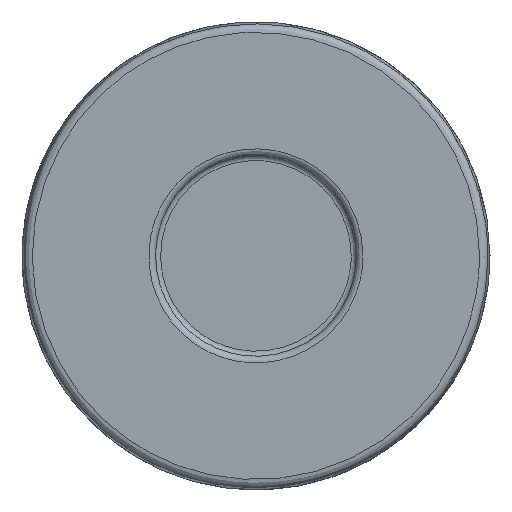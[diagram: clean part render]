
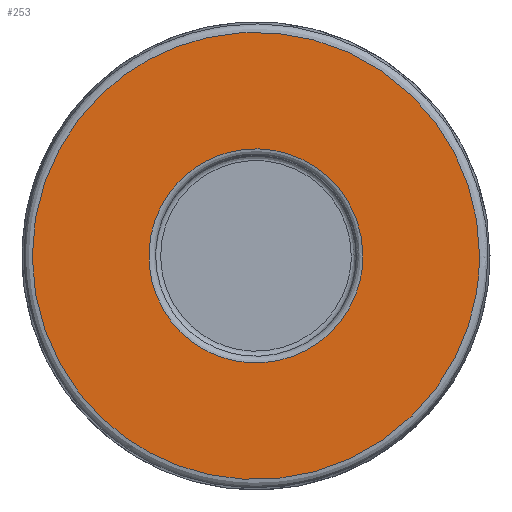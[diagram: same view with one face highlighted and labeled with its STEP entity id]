
A CAD part, front view. The second image highlights one B-rep face of the part: STEP entity #253.
In plain terms, the highlighted free-form (B-spline) face has degree [1, 1] with [2, 2] control points.
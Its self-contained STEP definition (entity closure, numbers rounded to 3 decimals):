
#187=CARTESIAN_POINT('V37',(42.706,10.787,
   0.));
#188=VERTEX_POINT('V37',#187);
#204=CARTESIAN_POINT('E56',(42.706,10.787,
   0.));
#205=CARTESIAN_POINT('E56',(42.706,10.787,
   27.713));
#206=CARTESIAN_POINT('E56',(18.706,10.787,
   13.856));
#207=CARTESIAN_POINT('E56',(-5.294,10.787,
   0.));
#208=CARTESIAN_POINT('E56',(18.706,10.787,
   -13.856));
#209=CARTESIAN_POINT('E56',(42.706,10.787,
   -27.713));
#210=CARTESIAN_POINT('E56',(42.706,10.787,
   0.));
#218=(BOUNDED_CURVE()B_SPLINE_CURVE(2,(#204,#205,#206,#207,#208,
   #209,#210),.CIRCULAR_ARC.,.T.,.U.)B_SPLINE_CURVE_WITH_KNOTS((3,
   2,2,3),(0.0,26.488,52.976,
   79.464),.UNSPECIFIED.)CURVE()
   GEOMETRIC_REPRESENTATION_ITEM()RATIONAL_B_SPLINE_CURVE((1.0,
   0.5,1.0,0.5,1.0,0.5,1.0)
   )REPRESENTATION_ITEM('E56'));
#219=EDGE_CURVE('E56',#188,#188,#218,.T.);
#224=CARTESIAN_POINT('F26',(63.485,10.787,
   -36.78));
#225=CARTESIAN_POINT('F26',(63.485,10.787,
   36.78));
#226=CARTESIAN_POINT('F26',(-10.074,10.787,
   -36.78));
#227=CARTESIAN_POINT('F26',(-10.074,10.787,
   36.78));
#228=QUASI_UNIFORM_SURFACE('F26',1,1,((#224,#226),(#225,#227)),
   .PLANE_SURF.,.F.,.F.,.U.);
#229=CARTESIAN_POINT('V38',(60.142,10.787,
   0.));
#230=VERTEX_POINT('V38',#229);
#231=CARTESIAN_POINT('E57',(60.142,10.787,
   0.));
#232=CARTESIAN_POINT('E57',(60.142,10.787,
   57.913));
#233=CARTESIAN_POINT('E57',(9.988,10.787,
   28.956));
#234=CARTESIAN_POINT('E57',(-40.166,10.787,
   0.));
#235=CARTESIAN_POINT('E57',(9.988,10.787,
   -28.956));
#236=CARTESIAN_POINT('E57',(60.142,10.787,
   -57.913));
#237=CARTESIAN_POINT('E57',(60.142,10.787,
   0.));
#245=(BOUNDED_CURVE()B_SPLINE_CURVE(2,(#231,#232,#233,#234,#235,
   #236,#237),.CIRCULAR_ARC.,.T.,.U.)B_SPLINE_CURVE_WITH_KNOTS((3,
   2,2,3),(0.0,0.333,0.667,1.0),
   .UNSPECIFIED.)CURVE()GEOMETRIC_REPRESENTATION_ITEM()
   RATIONAL_B_SPLINE_CURVE((1.0,0.5,1.0,
   0.5,1.0,0.5,1.0))REPRESENTATION_ITEM(
   'E57'));
#246=EDGE_CURVE('E57',#230,#230,#245,.T.);
#247=ORIENTED_EDGE('E57',*,*,#246,.T.);
#248=EDGE_LOOP('F26',(#247));
#249=FACE_OUTER_BOUND('F26',#248,.T.);
#250=ORIENTED_EDGE('F25',*,*,#219,.F.);
#251=EDGE_LOOP('F26',(#250));
#252=FACE_BOUND('F26',#251,.T.);
#253=ADVANCED_FACE('F26',(#249,#252),#228,.T.);
